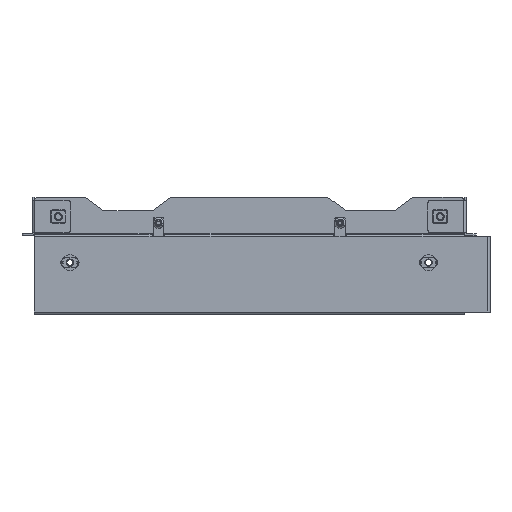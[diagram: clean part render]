
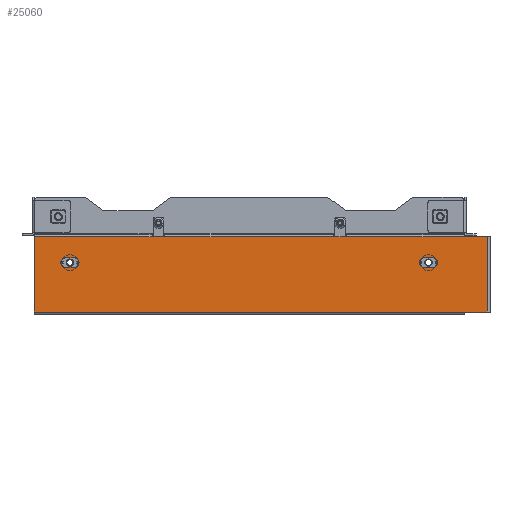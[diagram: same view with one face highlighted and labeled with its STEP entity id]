
A CAD part, left-side view. The second image highlights one B-rep face of the part: STEP entity #25060.
In plain terms, the highlighted planar face has unit normal (-1, 0, 0) as drawn and (0, 0, 1) by its records, which use the part's own axes.
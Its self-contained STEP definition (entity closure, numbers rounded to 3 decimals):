
#72 = AXIS2_PLACEMENT_3D ( 'NONE', #26873, #3827, #14696 ) ;
#129 = VERTEX_POINT ( 'NONE', #973 ) ;
#354 = LINE ( 'NONE', #26128, #24794 ) ;
#518 = DIRECTION ( 'NONE',  ( 0., 1., 0. ) ) ;
#829 = DIRECTION ( 'NONE',  ( 0., -1., 0. ) ) ;
#973 = CARTESIAN_POINT ( 'NONE',  ( -57.8, 144.5, 19.2 ) ) ;
#1068 = DIRECTION ( 'NONE',  ( 0., 1., 0. ) ) ;
#1074 = VECTOR ( 'NONE', #1068, 1000. ) ;
#1472 = DIRECTION ( 'NONE',  ( 0., -1., 0. ) ) ;
#1484 = VECTOR ( 'NONE', #17733, 1000. ) ;
#1562 = EDGE_CURVE ( 'NONE', #16361, #3693, #354, .T. ) ;
#1761 = VERTEX_POINT ( 'NONE', #8616 ) ;
#1833 = FACE_BOUND ( 'NONE', #13652, .T. ) ;
#1903 = VERTEX_POINT ( 'NONE', #20809 ) ;
#1967 = VECTOR ( 'NONE', #21866, 1000. ) ;
#2425 = ORIENTED_EDGE ( 'NONE', *, *, #6876, .T. ) ;
#2928 = LINE ( 'NONE', #28381, #6427 ) ;
#3490 = CARTESIAN_POINT ( 'NONE',  ( -32.27, 177.6, 19.2 ) ) ;
#3693 = VERTEX_POINT ( 'NONE', #21825 ) ;
#3827 = DIRECTION ( 'NONE',  ( 0., 0., -1. ) ) ;
#4150 = VERTEX_POINT ( 'NONE', #16910 ) ;
#4279 = EDGE_CURVE ( 'NONE', #25025, #9519, #17656, .T. ) ;
#4518 = VERTEX_POINT ( 'NONE', #16106 ) ;
#5092 = EDGE_CURVE ( 'NONE', #17916, #15874, #10181, .T. ) ;
#5407 = CARTESIAN_POINT ( 'NONE',  ( -94.57, -196.7, 19.2 ) ) ;
#5720 = VECTOR ( 'NONE', #11247, 1000. ) ;
#5733 = ORIENTED_EDGE ( 'NONE', *, *, #16279, .F. ) ;
#5950 = VECTOR ( 'NONE', #518, 1000. ) ;
#5988 = LINE ( 'NONE', #26925, #20172 ) ;
#6153 = CARTESIAN_POINT ( 'NONE',  ( -53.8, -144.5, 19.2 ) ) ;
#6185 = EDGE_CURVE ( 'NONE', #9519, #17316, #5988, .T. ) ;
#6211 = AXIS2_PLACEMENT_3D ( 'NONE', #6153, #19862, #27103 ) ;
#6427 = VECTOR ( 'NONE', #25982, 1000. ) ;
#6498 = DIRECTION ( 'NONE',  ( 0., 0., -1. ) ) ;
#6606 = ORIENTED_EDGE ( 'NONE', *, *, #23509, .T. ) ;
#6837 = EDGE_CURVE ( 'NONE', #20060, #26846, #2928, .T. ) ;
#6876 = EDGE_CURVE ( 'NONE', #129, #25025, #7737, .T. ) ;
#6967 = CARTESIAN_POINT ( 'NONE',  ( -31.67, 177.6, 19.2 ) ) ;
#7242 = EDGE_CURVE ( 'NONE', #20060, #11512, #29706, .T. ) ;
#7483 = ORIENTED_EDGE ( 'NONE', *, *, #5092, .F. ) ;
#7518 = EDGE_CURVE ( 'NONE', #1903, #4518, #29191, .T. ) ;
#7737 = LINE ( 'NONE', #24014, #5950 ) ;
#8244 = DIRECTION ( 'NONE',  ( 1., 0., 0. ) ) ;
#8380 = LINE ( 'NONE', #22250, #5720 ) ;
#8585 = AXIS2_PLACEMENT_3D ( 'NONE', #28624, #10528, #22132 ) ;
#8616 = CARTESIAN_POINT ( 'NONE',  ( -49.8, -151.5, 19.2 ) ) ;
#8651 = VERTEX_POINT ( 'NONE', #19126 ) ;
#8731 = AXIS2_PLACEMENT_3D ( 'NONE', #22779, #6498, #15692 ) ;
#8763 = VECTOR ( 'NONE', #829, 1000. ) ;
#9519 = VERTEX_POINT ( 'NONE', #28073 ) ;
#10181 = LINE ( 'NONE', #19367, #20664 ) ;
#10217 = EDGE_CURVE ( 'NONE', #4518, #16920, #28356, .T. ) ;
#10507 = EDGE_CURVE ( 'NONE', #11512, #16361, #8380, .T. ) ;
#10528 = DIRECTION ( 'NONE',  ( 0., 0., -1. ) ) ;
#10783 = ORIENTED_EDGE ( 'NONE', *, *, #16160, .T. ) ;
#10808 = DIRECTION ( 'NONE',  ( 0., -1., 0. ) ) ;
#11247 = DIRECTION ( 'NONE',  ( 0., -1., 0. ) ) ;
#11269 = EDGE_CURVE ( 'NONE', #17316, #129, #17708, .T. ) ;
#11512 = VERTEX_POINT ( 'NONE', #27837 ) ;
#11608 = CARTESIAN_POINT ( 'NONE',  ( -32.27, 177.6, 19.2 ) ) ;
#12056 = VECTOR ( 'NONE', #10808, 1000. ) ;
#12428 = EDGE_LOOP ( 'NONE', ( #28917, #23313, #2425, #27289 ) ) ;
#13085 = VERTEX_POINT ( 'NONE', #23927 ) ;
#13259 = CARTESIAN_POINT ( 'NONE',  ( -32.27, 80.25, 19.2 ) ) ;
#13386 = DIRECTION ( 'NONE',  ( 0., 1., 0. ) ) ;
#13533 = CARTESIAN_POINT ( 'NONE',  ( -49.8, 144.5, 19.2 ) ) ;
#13566 = CARTESIAN_POINT ( 'NONE',  ( -32.27, -69.75, 19.2 ) ) ;
#13652 = EDGE_LOOP ( 'NONE', ( #15368, #15287, #6606, #18095 ) ) ;
#13672 = EDGE_CURVE ( 'NONE', #1761, #1903, #25101, .T. ) ;
#14392 = LINE ( 'NONE', #28107, #8763 ) ;
#14513 = EDGE_CURVE ( 'NONE', #13085, #8651, #21706, .T. ) ;
#14696 = DIRECTION ( 'NONE',  ( -1., 0., 0. ) ) ;
#14749 = CARTESIAN_POINT ( 'NONE',  ( -49.8, -144.5, 19.2 ) ) ;
#15287 = ORIENTED_EDGE ( 'NONE', *, *, #10217, .T. ) ;
#15368 = ORIENTED_EDGE ( 'NONE', *, *, #7518, .T. ) ;
#15632 = LINE ( 'NONE', #15774, #12056 ) ;
#15692 = DIRECTION ( 'NONE',  ( 1., 0., 0. ) ) ;
#15774 = CARTESIAN_POINT ( 'NONE',  ( -32.27, 177.6, 19.2 ) ) ;
#15874 = VERTEX_POINT ( 'NONE', #13566 ) ;
#16106 = CARTESIAN_POINT ( 'NONE',  ( -57.8, -144.5, 19.2 ) ) ;
#16160 = EDGE_CURVE ( 'NONE', #3693, #13085, #28876, .T. ) ;
#16279 = EDGE_CURVE ( 'NONE', #15874, #4150, #15632, .T. ) ;
#16361 = VERTEX_POINT ( 'NONE', #17086 ) ;
#16534 = EDGE_CURVE ( 'NONE', #26846, #17916, #24131, .T. ) ;
#16851 = CARTESIAN_POINT ( 'NONE',  ( -32.27, 177.6, 19.2 ) ) ;
#16910 = CARTESIAN_POINT ( 'NONE',  ( -32.27, -80.25, 19.2 ) ) ;
#16920 = VERTEX_POINT ( 'NONE', #14749 ) ;
#17071 = EDGE_CURVE ( 'NONE', #4150, #8651, #28315, .T. ) ;
#17086 = CARTESIAN_POINT ( 'NONE',  ( -94.57, -177.6, 19.2 ) ) ;
#17316 = VERTEX_POINT ( 'NONE', #13533 ) ;
#17656 = CIRCLE ( 'NONE', #24914, 4. ) ;
#17708 = CIRCLE ( 'NONE', #8585, 4. ) ;
#17733 = DIRECTION ( 'NONE',  ( 0., -1., 0. ) ) ;
#17790 = CARTESIAN_POINT ( 'NONE',  ( -57.8, 151.5, 19.2 ) ) ;
#17916 = VERTEX_POINT ( 'NONE', #18744 ) ;
#17947 = FACE_OUTER_BOUND ( 'NONE', #19451, .T. ) ;
#18095 = ORIENTED_EDGE ( 'NONE', *, *, #13672, .T. ) ;
#18184 = CARTESIAN_POINT ( 'NONE',  ( -57.8, -151.5, 19.2 ) ) ;
#18255 = DIRECTION ( 'NONE',  ( -1., 0., 0. ) ) ;
#18744 = CARTESIAN_POINT ( 'NONE',  ( -32.27, 69.75, 19.2 ) ) ;
#19126 = CARTESIAN_POINT ( 'NONE',  ( -32.27, -177.6, 19.2 ) ) ;
#19367 = CARTESIAN_POINT ( 'NONE',  ( -32.27, 177.6, 19.2 ) ) ;
#19451 = EDGE_LOOP ( 'NONE', ( #20818, #5733, #7483, #22910, #25718, #26186, #24347, #28517, #10783, #19494 ) ) ;
#19494 = ORIENTED_EDGE ( 'NONE', *, *, #14513, .T. ) ;
#19862 = DIRECTION ( 'NONE',  ( 0., 0., -1. ) ) ;
#20060 = VERTEX_POINT ( 'NONE', #11608 ) ;
#20172 = VECTOR ( 'NONE', #1472, 1000. ) ;
#20664 = VECTOR ( 'NONE', #28125, 1000. ) ;
#20809 = CARTESIAN_POINT ( 'NONE',  ( -57.8, -151.5, 19.2 ) ) ;
#20818 = ORIENTED_EDGE ( 'NONE', *, *, #17071, .F. ) ;
#21304 = DIRECTION ( 'NONE',  ( 0., -1., 0. ) ) ;
#21706 = LINE ( 'NONE', #26663, #1074 ) ;
#21825 = CARTESIAN_POINT ( 'NONE',  ( -94.57, -196.7, 19.2 ) ) ;
#21866 = DIRECTION ( 'NONE',  ( 0., -1., 0. ) ) ;
#22132 = DIRECTION ( 'NONE',  ( 1., 0., 0. ) ) ;
#22214 = VECTOR ( 'NONE', #13386, 1000. ) ;
#22250 = CARTESIAN_POINT ( 'NONE',  ( -94.57, 177.6, 19.2 ) ) ;
#22474 = FACE_BOUND ( 'NONE', #12428, .T. ) ;
#22779 = CARTESIAN_POINT ( 'NONE',  ( -31.67, 177.6, 19.2 ) ) ;
#22910 = ORIENTED_EDGE ( 'NONE', *, *, #16534, .F. ) ;
#23313 = ORIENTED_EDGE ( 'NONE', *, *, #11269, .T. ) ;
#23509 = EDGE_CURVE ( 'NONE', #16920, #1761, #14392, .T. ) ;
#23682 = DIRECTION ( 'NONE',  ( 1., 0., 0. ) ) ;
#23927 = CARTESIAN_POINT ( 'NONE',  ( -32.27, -196.7, 19.2 ) ) ;
#23968 = CARTESIAN_POINT ( 'NONE',  ( -53.8, 151.5, 19.2 ) ) ;
#24014 = CARTESIAN_POINT ( 'NONE',  ( -57.8, 151.5, 19.2 ) ) ;
#24131 = LINE ( 'NONE', #3490, #1967 ) ;
#24347 = ORIENTED_EDGE ( 'NONE', *, *, #10507, .T. ) ;
#24794 = VECTOR ( 'NONE', #21304, 1000. ) ;
#24914 = AXIS2_PLACEMENT_3D ( 'NONE', #23968, #28337, #23682 ) ;
#25025 = VERTEX_POINT ( 'NONE', #17790 ) ;
#25050 = VECTOR ( 'NONE', #8244, 1000. ) ;
#25060 = ADVANCED_FACE ( 'NONE', ( #22474, #1833, #17947 ), #27145, .F. ) ;
#25101 = CIRCLE ( 'NONE', #72, 4. ) ;
#25718 = ORIENTED_EDGE ( 'NONE', *, *, #6837, .F. ) ;
#25982 = DIRECTION ( 'NONE',  ( 0., -1., 0. ) ) ;
#26128 = CARTESIAN_POINT ( 'NONE',  ( -94.57, -177.6, 19.2 ) ) ;
#26186 = ORIENTED_EDGE ( 'NONE', *, *, #7242, .T. ) ;
#26663 = CARTESIAN_POINT ( 'NONE',  ( -32.27, -196.7, 19.2 ) ) ;
#26846 = VERTEX_POINT ( 'NONE', #13259 ) ;
#26873 = CARTESIAN_POINT ( 'NONE',  ( -53.8, -151.5, 19.2 ) ) ;
#26925 = CARTESIAN_POINT ( 'NONE',  ( -49.8, 151.5, 19.2 ) ) ;
#27103 = DIRECTION ( 'NONE',  ( -1., 0., 0. ) ) ;
#27145 = PLANE ( 'NONE',  #8731 ) ;
#27289 = ORIENTED_EDGE ( 'NONE', *, *, #4279, .T. ) ;
#27837 = CARTESIAN_POINT ( 'NONE',  ( -94.57, 177.6, 19.2 ) ) ;
#28073 = CARTESIAN_POINT ( 'NONE',  ( -49.8, 151.5, 19.2 ) ) ;
#28107 = CARTESIAN_POINT ( 'NONE',  ( -49.8, -151.5, 19.2 ) ) ;
#28125 = DIRECTION ( 'NONE',  ( 0., -1., 0. ) ) ;
#28153 = VECTOR ( 'NONE', #18255, 1000. ) ;
#28315 = LINE ( 'NONE', #16851, #1484 ) ;
#28337 = DIRECTION ( 'NONE',  ( 0., 0., -1. ) ) ;
#28356 = CIRCLE ( 'NONE', #6211, 4. ) ;
#28381 = CARTESIAN_POINT ( 'NONE',  ( -32.27, 177.6, 19.2 ) ) ;
#28517 = ORIENTED_EDGE ( 'NONE', *, *, #1562, .T. ) ;
#28624 = CARTESIAN_POINT ( 'NONE',  ( -53.8, 144.5, 19.2 ) ) ;
#28876 = LINE ( 'NONE', #5407, #25050 ) ;
#28917 = ORIENTED_EDGE ( 'NONE', *, *, #6185, .T. ) ;
#29191 = LINE ( 'NONE', #18184, #22214 ) ;
#29706 = LINE ( 'NONE', #6967, #28153 ) ;
